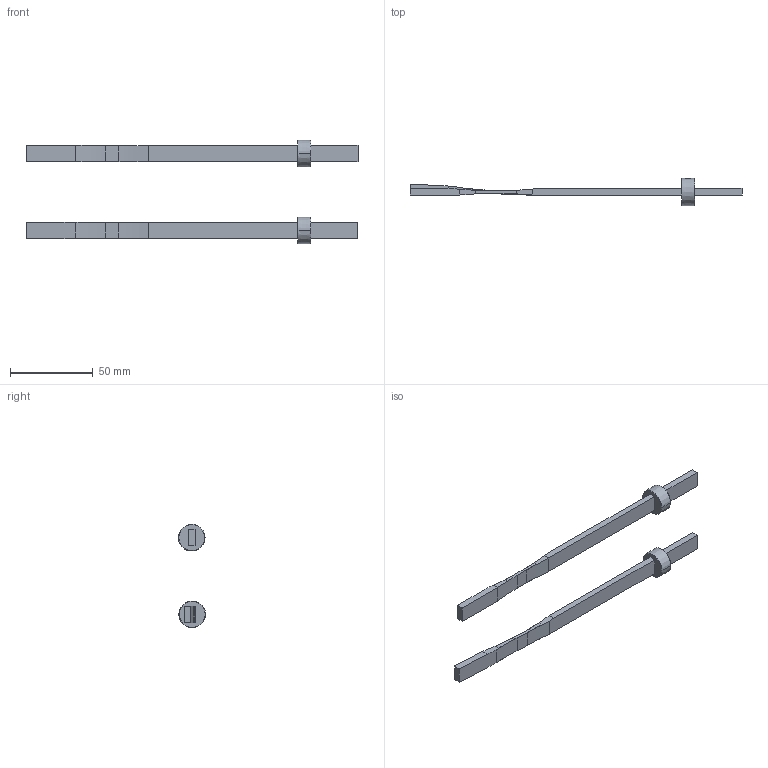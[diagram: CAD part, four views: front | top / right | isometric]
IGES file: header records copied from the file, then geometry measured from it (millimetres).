
Start section: START RECORD GO HERE.
Global section: file name: pf104200.igs; native system: DASSAULT SYSTEMES CATIA V5 R20 - www.3ds.com; preprocessor: CATIA Version 5 Release 20 ; author: Utente; organization: NB04-ASUS; date: 20201103.213808; units: millimetre
Bounding box: 200.01 x 16.27 x 62.24 mm (x, y, z)
Surface area: 12834 mm2 (no closed solid volume)
Topology: 0 solids, 0 shells, 74 faces, 380 edges, 376 vertices
Faces by surface type: plane 40, revolution 34
